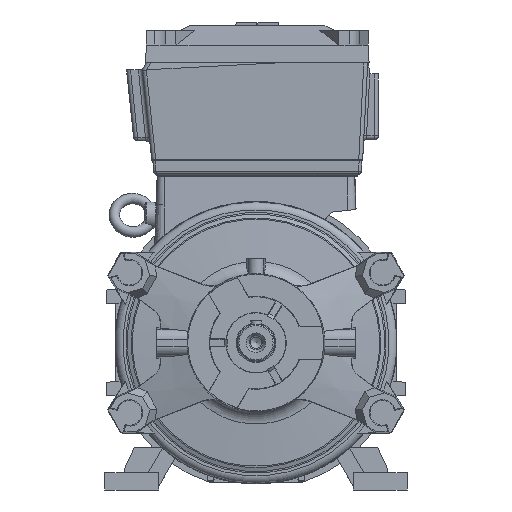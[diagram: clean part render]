
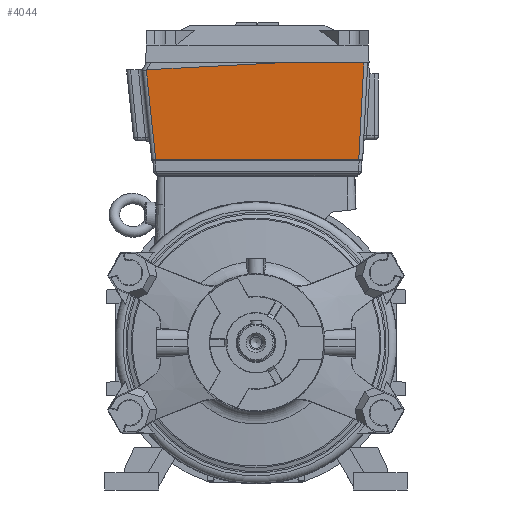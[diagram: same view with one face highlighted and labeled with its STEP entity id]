
A CAD part, front view. The second image highlights one B-rep face of the part: STEP entity #4044.
In plain terms, the highlighted planar face has unit normal (0, -0.999, -0.052).
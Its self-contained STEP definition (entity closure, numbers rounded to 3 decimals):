
#195=ELLIPSE('',#13488,34.573,3.);
#694=FACE_OUTER_BOUND('',#5345,.T.);
#2196=LINE('',#21741,#3201);
#2197=LINE('',#21744,#3202);
#2198=LINE('',#21748,#3203);
#2199=LINE('',#21750,#3204);
#2200=LINE('',#21752,#3205);
#3201=VECTOR('',#16020,1.);
#3202=VECTOR('',#16021,1.);
#3203=VECTOR('',#16024,1.);
#3204=VECTOR('',#16025,1.);
#3205=VECTOR('',#16026,1.);
#4044=ADVANCED_FACE('',(#694),#4576,.F.);
#4576=PLANE('',#13489);
#5345=EDGE_LOOP('',(#8289,#8290,#8291,#8292,#8293,#8294));
#8289=ORIENTED_EDGE('',*,*,#11858,.F.);
#8290=ORIENTED_EDGE('',*,*,#11859,.T.);
#8291=ORIENTED_EDGE('',*,*,#11860,.T.);
#8292=ORIENTED_EDGE('',*,*,#11861,.T.);
#8293=ORIENTED_EDGE('',*,*,#11862,.T.);
#8294=ORIENTED_EDGE('',*,*,#11863,.T.);
#10186=VERTEX_POINT('',#21742);
#10187=VERTEX_POINT('',#21743);
#10188=VERTEX_POINT('',#21745);
#10189=VERTEX_POINT('',#21747);
#10190=VERTEX_POINT('',#21749);
#10191=VERTEX_POINT('',#21751);
#11858=EDGE_CURVE('',#10186,#10187,#2196,.T.);
#11859=EDGE_CURVE('',#10186,#10188,#2197,.T.);
#11860=EDGE_CURVE('',#10188,#10189,#195,.T.);
#11861=EDGE_CURVE('',#10189,#10190,#2198,.T.);
#11862=EDGE_CURVE('',#10190,#10191,#2199,.T.);
#11863=EDGE_CURVE('',#10191,#10187,#2200,.T.);
#13488=AXIS2_PLACEMENT_3D('',#21746,#16022,#16023);
#13489=AXIS2_PLACEMENT_3D('',#21753,#16027,#16028);
#16020=DIRECTION('',(1.,0.,0.));
#16021=DIRECTION('',(-0.999,0.003,-0.052));
#16022=DIRECTION('',(0.,-0.999,-0.052));
#16023=DIRECTION('',(-0.471,0.046,-0.881));
#16024=DIRECTION('',(0.104,0.052,-0.993));
#16025=DIRECTION('',(1.,0.,0.));
#16026=DIRECTION('',(0.052,-0.052,0.997));
#16027=DIRECTION('',(0.,0.999,0.052));
#16028=DIRECTION('',(0.,0.052,-0.999));
#21741=CARTESIAN_POINT('',(1.,-2.,212.825));
#21742=CARTESIAN_POINT('',(15.061,-2.,212.825));
#21743=CARTESIAN_POINT('',(82.004,-2.,212.825));
#21744=CARTESIAN_POINT('',(-2.961,-1.951,211.88));
#21745=CARTESIAN_POINT('',(-83.064,-1.73,207.682));
#21746=CARTESIAN_POINT('',(-99.183,-0.133,177.191));
#21747=CARTESIAN_POINT('',(-83.465,-1.722,207.529));
#21748=CARTESIAN_POINT('',(-75.161,2.418,128.517));
#21749=CARTESIAN_POINT('',(-76.299,1.851,139.343));
#21750=CARTESIAN_POINT('',(1.,1.851,139.343));
#21751=CARTESIAN_POINT('',(78.153,1.851,139.343));
#21752=CARTESIAN_POINT('',(77.794,2.21,132.486));
#21753=CARTESIAN_POINT('',(1.,2.,136.5));
